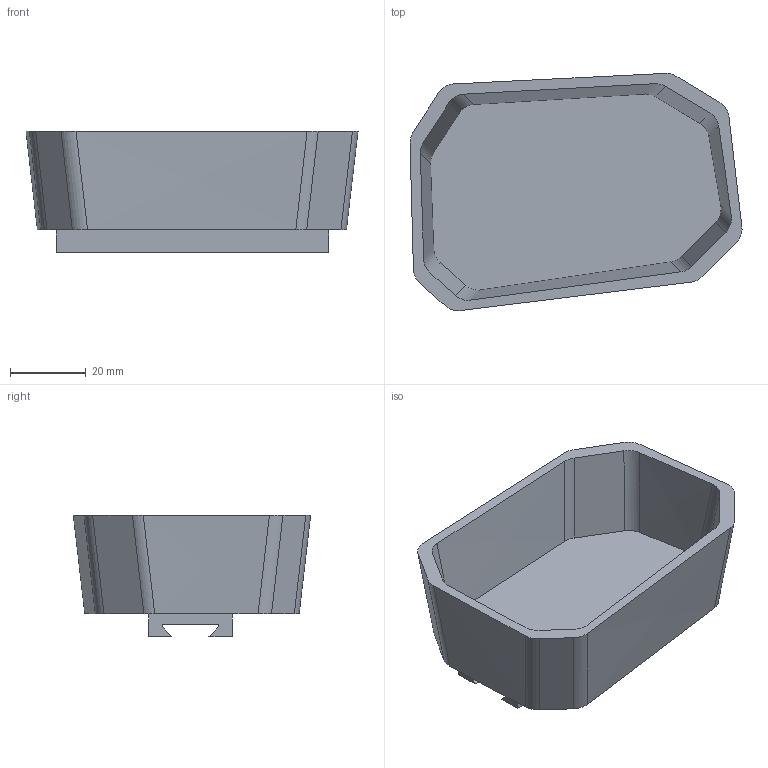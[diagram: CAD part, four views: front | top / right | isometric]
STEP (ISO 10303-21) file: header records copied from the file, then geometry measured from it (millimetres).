
FILE_DESCRIPTION(('Open CASCADE Model'),'2;1');
FILE_NAME('Open CASCADE Shape Model','2026-09-13T15:26:29',('Author'),( 'Open CASCADE'),'Open CASCADE STEP processor 7.9','build123d', 'Unknown');
FILE_SCHEMA(('AUTOMOTIVE_DESIGN { 1 0 10303 214 1 1 1 1 }'));
Length unit declared in the file: millimetre
Products named in the file (2): =>[0:1:1:2]; COMPOUND
Assembly tree (1 placements, depth 2):
  =>[0:1:1:2]
    COMPOUND
Bounding box: 87.71 x 62.68 x 32 mm (x, y, z)
Volume: 34158.2 mm3; surface area: 21712.3 mm2
Topology: 1 solids, 1 shells, 46 faces, 126 edges, 84 vertices
Faces by surface type: bspline 32, plane 14
Entity records: 4166 total; most frequent: CARTESIAN_POINT 1928, DIRECTION 296, ORIENTED_EDGE 252, PCURVE 252, DEFINITIONAL_REPRESENTATION 252, LINE 192, VECTOR 192, B_SPLINE_CURVE_WITH_KNOTS 138
